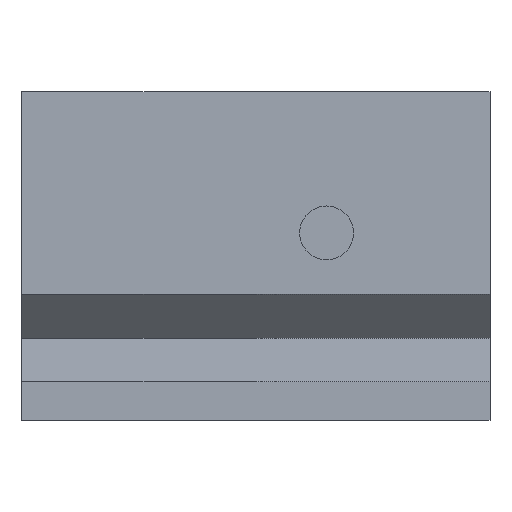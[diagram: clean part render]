
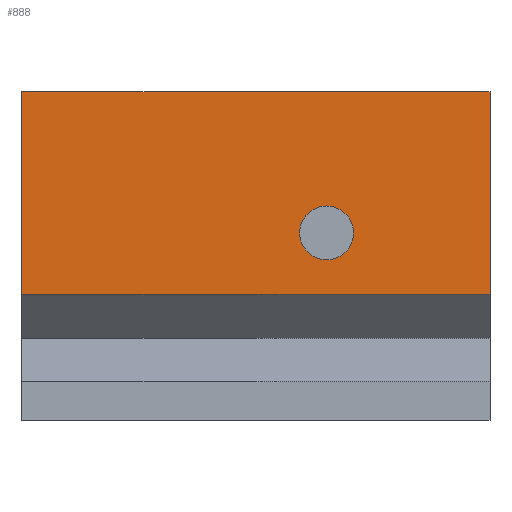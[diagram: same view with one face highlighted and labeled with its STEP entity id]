
A CAD part, front view. The second image highlights one B-rep face of the part: STEP entity #888.
In plain terms, the highlighted planar face has unit normal (0, -1, 0).
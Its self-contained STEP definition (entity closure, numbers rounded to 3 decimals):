
#22 = VERTEX_POINT('',#23);
#23 = CARTESIAN_POINT('',(0.,0.,25.711));
#32 = PLANE('',#33);
#33 = AXIS2_PLACEMENT_3D('',#34,#35,#36);
#34 = CARTESIAN_POINT('',(0.,0.,0.));
#35 = DIRECTION('',(1.,0.,-0.));
#36 = DIRECTION('',(0.,0.,1.));
#44 = PLANE('',#45);
#45 = AXIS2_PLACEMENT_3D('',#46,#47,#48);
#46 = CARTESIAN_POINT('',(0.,0.,25.711));
#47 = DIRECTION('',(0.,0.,1.));
#48 = DIRECTION('',(1.,0.,-0.));
#56 = EDGE_CURVE('',#57,#22,#59,.T.);
#57 = VERTEX_POINT('',#58);
#58 = CARTESIAN_POINT('',(0.,0.,9.85));
#59 = SURFACE_CURVE('',#60,(#64,#71),.PCURVE_S1.);
#60 = LINE('',#61,#62);
#61 = CARTESIAN_POINT('',(0.,0.,0.));
#62 = VECTOR('',#63,1.);
#63 = DIRECTION('',(0.,0.,1.));
#64 = PCURVE('',#32,#65);
#65 = DEFINITIONAL_REPRESENTATION('',(#66),#70);
#66 = LINE('',#67,#68);
#67 = CARTESIAN_POINT('',(0.,0.));
#68 = VECTOR('',#69,1.);
#69 = DIRECTION('',(1.,0.));
#70 = ( GEOMETRIC_REPRESENTATION_CONTEXT(2) 
PARAMETRIC_REPRESENTATION_CONTEXT() REPRESENTATION_CONTEXT('2D SPACE',''
  ) );
#71 = PCURVE('',#72,#77);
#72 = PLANE('',#73);
#73 = AXIS2_PLACEMENT_3D('',#74,#75,#76);
#74 = CARTESIAN_POINT('',(0.,0.,0.));
#75 = DIRECTION('',(-0.,1.,0.));
#76 = DIRECTION('',(0.,0.,1.));
#77 = DEFINITIONAL_REPRESENTATION('',(#78),#82);
#78 = LINE('',#79,#80);
#79 = CARTESIAN_POINT('',(0.,0.));
#80 = VECTOR('',#81,1.);
#81 = DIRECTION('',(1.,0.));
#82 = ( GEOMETRIC_REPRESENTATION_CONTEXT(2) 
PARAMETRIC_REPRESENTATION_CONTEXT() REPRESENTATION_CONTEXT('2D SPACE',''
  ) );
#100 = PLANE('',#101);
#101 = AXIS2_PLACEMENT_3D('',#102,#103,#104);
#102 = CARTESIAN_POINT('',(0.,0.,9.85));
#103 = DIRECTION('',(0.,0.437,0.899));
#104 = DIRECTION('',(0.,0.899,-0.437));
#357 = EDGE_CURVE('',#22,#358,#360,.T.);
#358 = VERTEX_POINT('',#359);
#359 = CARTESIAN_POINT('',(36.587,0.,25.711));
#360 = SURFACE_CURVE('',#361,(#365,#372),.PCURVE_S1.);
#361 = LINE('',#362,#363);
#362 = CARTESIAN_POINT('',(0.,0.,25.711));
#363 = VECTOR('',#364,1.);
#364 = DIRECTION('',(1.,0.,-0.));
#365 = PCURVE('',#44,#366);
#366 = DEFINITIONAL_REPRESENTATION('',(#367),#371);
#367 = LINE('',#368,#369);
#368 = CARTESIAN_POINT('',(0.,0.));
#369 = VECTOR('',#370,1.);
#370 = DIRECTION('',(1.,0.));
#371 = ( GEOMETRIC_REPRESENTATION_CONTEXT(2) 
PARAMETRIC_REPRESENTATION_CONTEXT() REPRESENTATION_CONTEXT('2D SPACE',''
  ) );
#372 = PCURVE('',#72,#373);
#373 = DEFINITIONAL_REPRESENTATION('',(#374),#378);
#374 = LINE('',#375,#376);
#375 = CARTESIAN_POINT('',(25.711,0.));
#376 = VECTOR('',#377,1.);
#377 = DIRECTION('',(0.,1.));
#378 = ( GEOMETRIC_REPRESENTATION_CONTEXT(2) 
PARAMETRIC_REPRESENTATION_CONTEXT() REPRESENTATION_CONTEXT('2D SPACE',''
  ) );
#396 = PLANE('',#397);
#397 = AXIS2_PLACEMENT_3D('',#398,#399,#400);
#398 = CARTESIAN_POINT('',(36.587,0.,0.));
#399 = DIRECTION('',(1.,0.,-0.));
#400 = DIRECTION('',(0.,0.,1.));
#846 = EDGE_CURVE('',#57,#847,#849,.T.);
#847 = VERTEX_POINT('',#848);
#848 = CARTESIAN_POINT('',(36.587,0.,9.85));
#849 = SURFACE_CURVE('',#850,(#854,#861),.PCURVE_S1.);
#850 = LINE('',#851,#852);
#851 = CARTESIAN_POINT('',(0.,0.,9.85));
#852 = VECTOR('',#853,1.);
#853 = DIRECTION('',(1.,0.,-0.));
#854 = PCURVE('',#100,#855);
#855 = DEFINITIONAL_REPRESENTATION('',(#856),#860);
#856 = LINE('',#857,#858);
#857 = CARTESIAN_POINT('',(0.,0.));
#858 = VECTOR('',#859,1.);
#859 = DIRECTION('',(0.,-1.));
#860 = ( GEOMETRIC_REPRESENTATION_CONTEXT(2) 
PARAMETRIC_REPRESENTATION_CONTEXT() REPRESENTATION_CONTEXT('2D SPACE',''
  ) );
#861 = PCURVE('',#72,#862);
#862 = DEFINITIONAL_REPRESENTATION('',(#863),#867);
#863 = LINE('',#864,#865);
#864 = CARTESIAN_POINT('',(9.85,0.));
#865 = VECTOR('',#866,1.);
#866 = DIRECTION('',(0.,1.));
#867 = ( GEOMETRIC_REPRESENTATION_CONTEXT(2) 
PARAMETRIC_REPRESENTATION_CONTEXT() REPRESENTATION_CONTEXT('2D SPACE',''
  ) );
#888 = ADVANCED_FACE('f007',(#889,#915),#72,.F.);
#889 = FACE_BOUND('',#890,.F.);
#890 = EDGE_LOOP('',(#891,#912,#913,#914));
#891 = ORIENTED_EDGE('',*,*,#892,.F.);
#892 = EDGE_CURVE('',#847,#358,#893,.T.);
#893 = SURFACE_CURVE('',#894,(#898,#905),.PCURVE_S1.);
#894 = LINE('',#895,#896);
#895 = CARTESIAN_POINT('',(36.587,0.,0.));
#896 = VECTOR('',#897,1.);
#897 = DIRECTION('',(0.,0.,1.));
#898 = PCURVE('',#72,#899);
#899 = DEFINITIONAL_REPRESENTATION('',(#900),#904);
#900 = LINE('',#901,#902);
#901 = CARTESIAN_POINT('',(0.,36.587));
#902 = VECTOR('',#903,1.);
#903 = DIRECTION('',(1.,0.));
#904 = ( GEOMETRIC_REPRESENTATION_CONTEXT(2) 
PARAMETRIC_REPRESENTATION_CONTEXT() REPRESENTATION_CONTEXT('2D SPACE',''
  ) );
#905 = PCURVE('',#396,#906);
#906 = DEFINITIONAL_REPRESENTATION('',(#907),#911);
#907 = LINE('',#908,#909);
#908 = CARTESIAN_POINT('',(0.,0.));
#909 = VECTOR('',#910,1.);
#910 = DIRECTION('',(1.,0.));
#911 = ( GEOMETRIC_REPRESENTATION_CONTEXT(2) 
PARAMETRIC_REPRESENTATION_CONTEXT() REPRESENTATION_CONTEXT('2D SPACE',''
  ) );
#912 = ORIENTED_EDGE('',*,*,#846,.F.);
#913 = ORIENTED_EDGE('',*,*,#56,.T.);
#914 = ORIENTED_EDGE('',*,*,#357,.T.);
#915 = FACE_BOUND('',#916,.F.);
#916 = EDGE_LOOP('',(#917));
#917 = ORIENTED_EDGE('',*,*,#918,.T.);
#918 = EDGE_CURVE('',#919,#919,#921,.T.);
#919 = VERTEX_POINT('',#920);
#920 = CARTESIAN_POINT('',(23.81,0.,12.556));
#921 = SURFACE_CURVE('',#922,(#927,#938),.PCURVE_S1.);
#922 = CIRCLE('',#923,2.107);
#923 = AXIS2_PLACEMENT_3D('',#924,#925,#926);
#924 = CARTESIAN_POINT('',(23.81,0.,14.663));
#925 = DIRECTION('',(0.,-1.,0.));
#926 = DIRECTION('',(0.,-0.,-1.));
#927 = PCURVE('',#72,#928);
#928 = DEFINITIONAL_REPRESENTATION('',(#929),#937);
#929 = ( BOUNDED_CURVE() B_SPLINE_CURVE(2,(#930,#931,#932,#933,#934,#935
,#936),.UNSPECIFIED.,.T.,.F.) B_SPLINE_CURVE_WITH_KNOTS((1,2,2,2,2,1),(
    -2.094,0.,2.094,4.189,6.283,
8.378),.UNSPECIFIED.) CURVE() GEOMETRIC_REPRESENTATION_ITEM() 
RATIONAL_B_SPLINE_CURVE((1.,0.5,1.,0.5,1.,0.5,1.)) REPRESENTATION_ITEM(
  '') );
#930 = CARTESIAN_POINT('',(12.556,23.81));
#931 = CARTESIAN_POINT('',(12.556,27.46));
#932 = CARTESIAN_POINT('',(15.717,25.635));
#933 = CARTESIAN_POINT('',(18.877,23.81));
#934 = CARTESIAN_POINT('',(15.717,21.985));
#935 = CARTESIAN_POINT('',(12.556,20.161));
#936 = CARTESIAN_POINT('',(12.556,23.81));
#937 = ( GEOMETRIC_REPRESENTATION_CONTEXT(2) 
PARAMETRIC_REPRESENTATION_CONTEXT() REPRESENTATION_CONTEXT('2D SPACE',''
  ) );
#938 = PCURVE('',#939,#944);
#939 = CYLINDRICAL_SURFACE('',#940,2.107);
#940 = AXIS2_PLACEMENT_3D('',#941,#942,#943);
#941 = CARTESIAN_POINT('',(23.81,0.,14.663));
#942 = DIRECTION('',(0.,-1.,0.));
#943 = DIRECTION('',(0.,-0.,-1.));
#944 = DEFINITIONAL_REPRESENTATION('',(#945),#949);
#945 = LINE('',#946,#947);
#946 = CARTESIAN_POINT('',(0.,0.));
#947 = VECTOR('',#948,1.);
#948 = DIRECTION('',(1.,0.));
#949 = ( GEOMETRIC_REPRESENTATION_CONTEXT(2) 
PARAMETRIC_REPRESENTATION_CONTEXT() REPRESENTATION_CONTEXT('2D SPACE',''
  ) );
